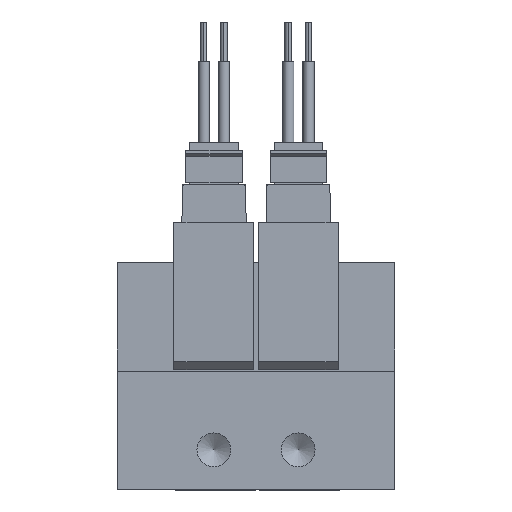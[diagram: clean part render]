
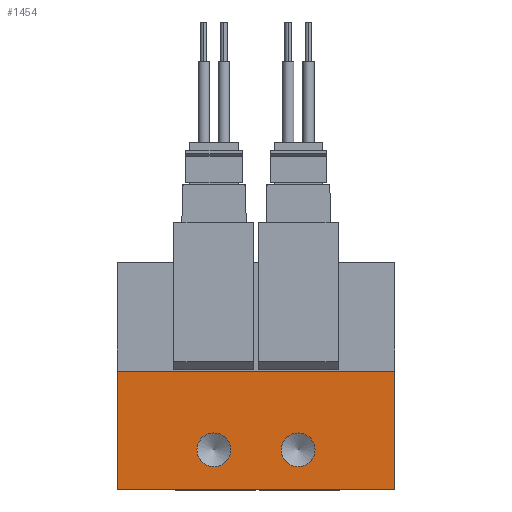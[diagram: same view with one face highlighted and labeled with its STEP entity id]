
A CAD part, front view. The second image highlights one B-rep face of the part: STEP entity #1454.
In plain terms, the highlighted planar face has unit normal (0, -1, 0).
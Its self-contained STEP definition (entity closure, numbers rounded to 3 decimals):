
#1454=ADVANCED_FACE('',(#2318,#2319,#2320),#2321,.F.);
#2318=FACE_BOUND('',#4108,.T.);
#2319=FACE_BOUND('',#4109,.T.);
#2320=FACE_OUTER_BOUND('',#4110,.T.);
#2321=PLANE('',#4111);
#4108=EDGE_LOOP('',(#6366));
#4109=EDGE_LOOP('',(#6367));
#4110=EDGE_LOOP('',(#6368,#6369,#6370,#6371));
#4111=AXIS2_PLACEMENT_3D('',#6372,#6373,#6374);
#6366=ORIENTED_EDGE('',*,*,#13126,.F.);
#6367=ORIENTED_EDGE('',*,*,#13147,.F.);
#6368=ORIENTED_EDGE('',*,*,#13148,.F.);
#6369=ORIENTED_EDGE('',*,*,#13149,.F.);
#6370=ORIENTED_EDGE('',*,*,#13150,.T.);
#6371=ORIENTED_EDGE('',*,*,#13145,.T.);
#6372=CARTESIAN_POINT('',(-34.5,0.,14.8));
#6373=DIRECTION('',(0.0,1.0,0.));
#6374=DIRECTION('',(0.0,0.,1.0));
#13126=EDGE_CURVE('',#15326,#15326,#15327,.T.);
#13145=EDGE_CURVE('',#15361,#15359,#15362,.T.);
#13147=EDGE_CURVE('',#15364,#15364,#15365,.T.);
#13148=EDGE_CURVE('',#15366,#15359,#15367,.T.);
#13149=EDGE_CURVE('',#15368,#15366,#15369,.T.);
#13150=EDGE_CURVE('',#15368,#15361,#15370,.T.);
#15326=VERTEX_POINT('',#19046);
#15327=CIRCLE('',#19047,2.1);
#15359=VERTEX_POINT('',#19092);
#15361=VERTEX_POINT('',#19095);
#15362=LINE('',#19096,#19097);
#15364=VERTEX_POINT('',#19100);
#15365=CIRCLE('',#19101,2.1);
#15366=VERTEX_POINT('',#19102);
#15367=LINE('',#19103,#19104);
#15368=VERTEX_POINT('',#19105);
#15369=LINE('',#19106,#19107);
#15370=LINE('',#19108,#19109);
#19046=CARTESIAN_POINT('',(-22.5,0.,2.9));
#19047=AXIS2_PLACEMENT_3D('',#24387,#24388,#24389);
#19092=CARTESIAN_POINT('',(0.0,0.0,0.0));
#19095=CARTESIAN_POINT('',(-34.5,0.0,0.0));
#19096=CARTESIAN_POINT('',(-34.5,0.0,0.0));
#19097=VECTOR('',#24416,1.0);
#19100=CARTESIAN_POINT('',(-12.0,0.,2.9));
#19101=AXIS2_PLACEMENT_3D('',#24418,#24419,#24420);
#19102=CARTESIAN_POINT('',(0.0,0.,14.8));
#19103=CARTESIAN_POINT('',(0.0,0.,14.8));
#19104=VECTOR('',#24421,1.0);
#19105=CARTESIAN_POINT('',(-34.5,0.,14.8));
#19106=CARTESIAN_POINT('',(-34.5,0.,14.8));
#19107=VECTOR('',#24422,1.0);
#19108=CARTESIAN_POINT('',(-34.5,0.,14.8));
#19109=VECTOR('',#24423,1.0);
#24387=CARTESIAN_POINT('',(-22.5,0.0,5.0));
#24388=DIRECTION('',(0.0,-1.0,0.));
#24389=DIRECTION('',(0.0,0.,-1.0));
#24416=DIRECTION('',(1.0,0.0,0.0));
#24418=CARTESIAN_POINT('',(-12.0,0.0,5.0));
#24419=DIRECTION('',(0.0,-1.0,0.));
#24420=DIRECTION('',(0.0,0.,-1.0));
#24421=DIRECTION('',(0.0,0.,-1.0));
#24422=DIRECTION('',(1.0,0.0,0.0));
#24423=DIRECTION('',(0.0,0.,-1.0));
